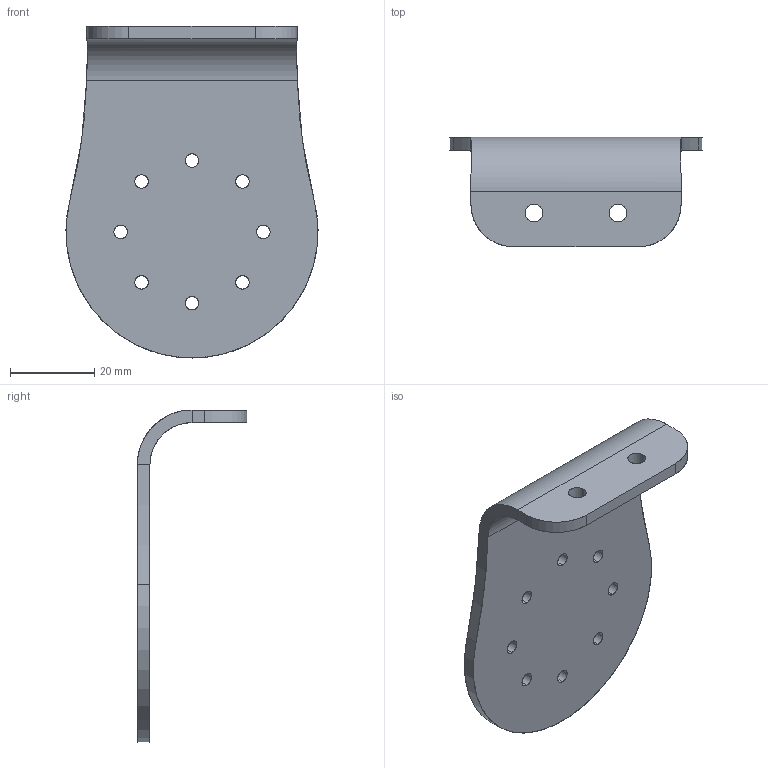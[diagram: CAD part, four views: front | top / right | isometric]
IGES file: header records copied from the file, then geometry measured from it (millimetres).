
Start section: SolidWorks IGES file using analytic representation for surfaces
Global section: file name: C:\Users\Brian\Dropbox\BR-Engineering\PROJECTS\PING360\MODELS\RELEASES\PUBLIC\PING360-M-FRAME-MOUNT-R1-PUBLIC\PING360-M-FRAME-MOUNT-R1.IGS; native system: SolidWorks 2016; preprocessor: SolidWorks 2016; author: Brian; date: 190731.094749; units: millimetre
Bounding box: 59.99 x 26 x 79 mm (x, y, z)
Surface area: 10709.5 mm2 (no closed solid volume)
Topology: 0 solids, 0 shells, 36 faces, 902 edges, 902 vertices
Faces by surface type: revolution 27, bspline 9
